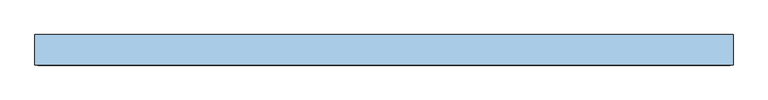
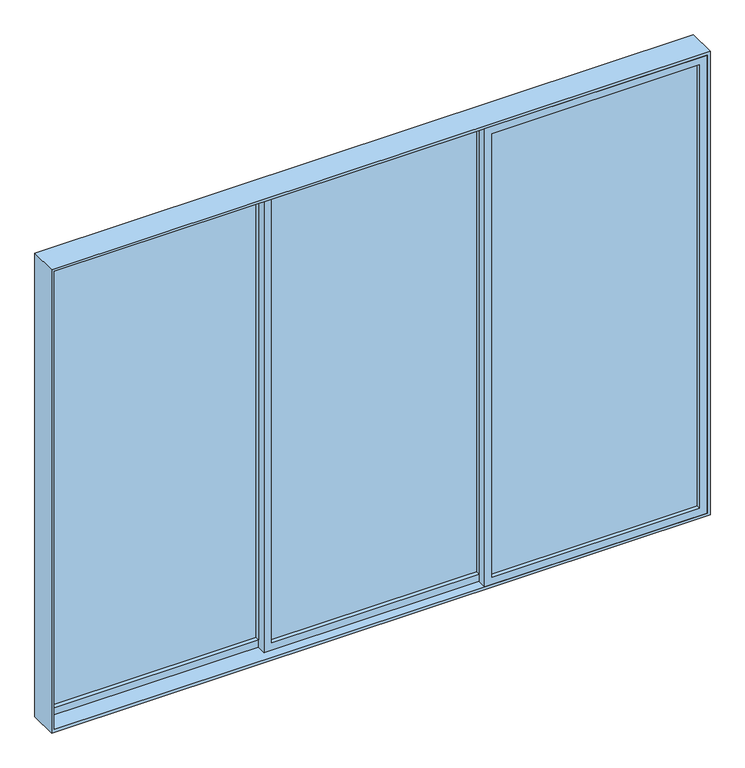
"""IFC4 building model written with IfcOpenShell, lengths in millimetres: window geometry, VENT_ALUM_CORR_3HOJAS_CORRE 2 : VD-1 / CORRE SALA 3.43 X 2.55."""

from ifc_helpers import new_model, si_unit, frame, origin, place, context, project, spatial, polyline, outline, extrude, source, transform, mapped, element, save


def window_fdb40cbf(model_context):
    return source(origin(), model_context, "Body", "SweptSolid", [
        extrude(outline(polyline([(-1660.0, 47.0), (-1660.0, 53.0), (-580.0, 53.0), (-580.0, 47.0), (-1660.0, 47.0)])), frame((0.0, 0.0, 855.0), z_axis=(0.0, 0.0, 1.0), x_axis=(1.0, 0.0, 0.0)), (0.0, 0.0, 1.0), 2440.0),
        extrude(outline(polyline([(3335.0, -1700.0), (815.0, -1700.0), (815.0, -540.0), (3335.0, -540.0), (3335.0, -1700.0)]), holes=[polyline([(855.0, -1660.0), (3295.0, -1660.0), (3295.0, -580.0), (855.0, -580.0), (855.0, -1660.0)])]), frame((0.0, 25.0, 0.0), z_axis=(0.0, 1.0, 0.0), x_axis=(0.0, 0.0, 1.0)), (0.0, 0.0, 1.0), 50.0),
        extrude(outline(polyline([(-540.0, -3.0), (-540.0, 3.0), (540.0, 3.0), (540.0, -3.0), (-540.0, -3.0)])), frame((0.0, 0.0, 855.0), z_axis=(0.0, 0.0, 1.0), x_axis=(1.0, 0.0, 0.0)), (0.0, 0.0, 1.0), 2440.0),
        extrude(outline(polyline([(3335.0, -580.0), (815.0, -580.0), (815.0, 580.0), (3335.0, 580.0), (3335.0, -580.0)]), holes=[polyline([(855.0, -540.0), (3295.0, -540.0), (3295.0, 540.0), (855.0, 540.0), (855.0, -540.0)])]), frame((0.0, -25.0, 0.0), z_axis=(0.0, 1.0, 0.0), x_axis=(0.0, 0.0, 1.0)), (0.0, 0.0, 1.0), 50.0),
        extrude(outline(polyline([(580.0, -53.0), (580.0, -47.0), (1660.0, -47.0), (1660.0, -53.0), (580.0, -53.0)])), frame((0.0, 0.0, 855.0), z_axis=(0.0, 0.0, 1.0), x_axis=(1.0, 0.0, 0.0)), (0.0, 0.0, 1.0), 2440.0),
        extrude(outline(polyline([(3335.0, 540.0), (815.0, 540.0), (815.0, 1700.0), (3335.0, 1700.0), (3335.0, 540.0)]), holes=[polyline([(855.0, 580.0), (3295.0, 580.0), (3295.0, 1660.0), (855.0, 1660.0), (855.0, 580.0)])]), frame((0.0, -75.0, 0.0), z_axis=(0.0, 1.0, 0.0), x_axis=(0.0, 0.0, 1.0)), (0.0, 0.0, 1.0), 50.0),
        extrude(outline(polyline([(3350.0, -1715.0), (800.0, -1715.0), (800.0, 1715.0), (3350.0, 1715.0), (3350.0, -1715.0)]), holes=[polyline([(815.0, -1700.0), (3335.0, -1700.0), (3335.0, 1700.0), (815.0, 1700.0), (815.0, -1700.0)])]), frame((0.0, -75.0, 0.0), z_axis=(0.0, 1.0, 0.0), x_axis=(0.0, 0.0, 1.0)), (0.0, 0.0, 1.0), 150.0),
    ])


if __name__ == "__main__":
    model = new_model("IFC4")
    model_context = context("Model", 3, world=origin())
    ifc_project = project(units=[si_unit("LENGTHUNIT", "METRE", prefix="MILLI")], contexts=[model_context])
    site = spatial("IfcSite", under=ifc_project)
    building = spatial("IfcBuilding", under=site)
    placement = place(None, origin())
    window_shape = window_fdb40cbf(model_context)
    element("IfcWindow", 1, ObjectType="VENT_ALUM_CORR_3HOJAS_CORRE 2 : VD-1 / CORRE SALA 3.43 X 2.55", at=placement, inside=building, context=model_context, shape_type="MappedRepresentation", body=[
        mapped(window_shape, transform((0.0, 0.0, 0.0), x_axis=(1.0, 0.0, 0.0), y_axis=(0.0, 1.0, 0.0), z_axis=(0.0, 0.0, 1.0))),
    ])
    save(model, "model.ifc")
